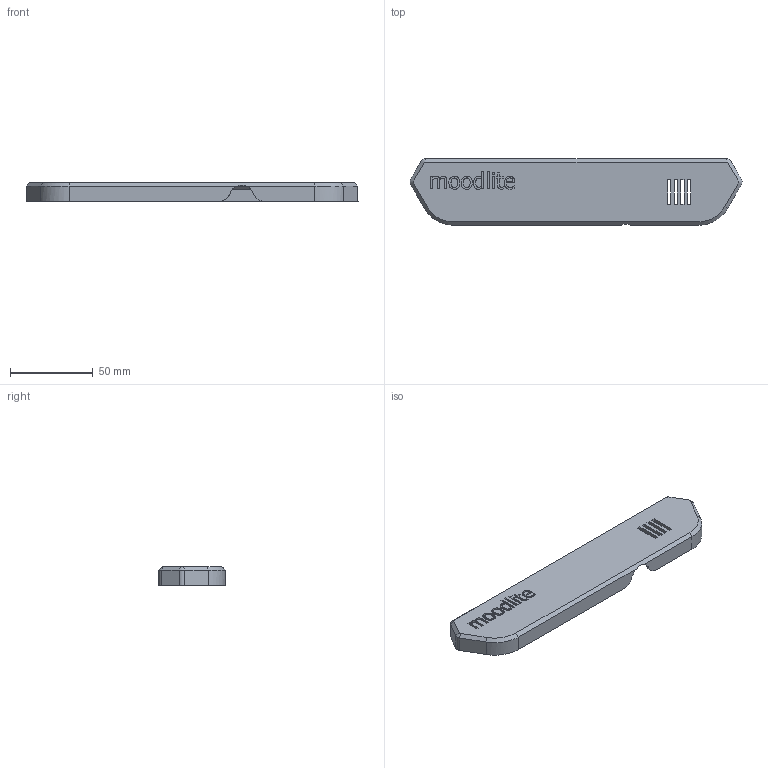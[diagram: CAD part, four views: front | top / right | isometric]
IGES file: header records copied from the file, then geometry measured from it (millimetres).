
Global section: file name: Power Top; native system: Autodesk Inventor 2017; preprocessor: unknown; author: cdrsk; date: 20181227.184317; units: millimetre
Bounding box: 200.65 x 40 x 11.2 mm (x, y, z)
Volume: 18501.4 mm3; surface area: 23093.5 mm2
Topology: 1 solids, 1 shells, 209 faces, 549 edges, 358 vertices
Faces by surface type: bspline 209
